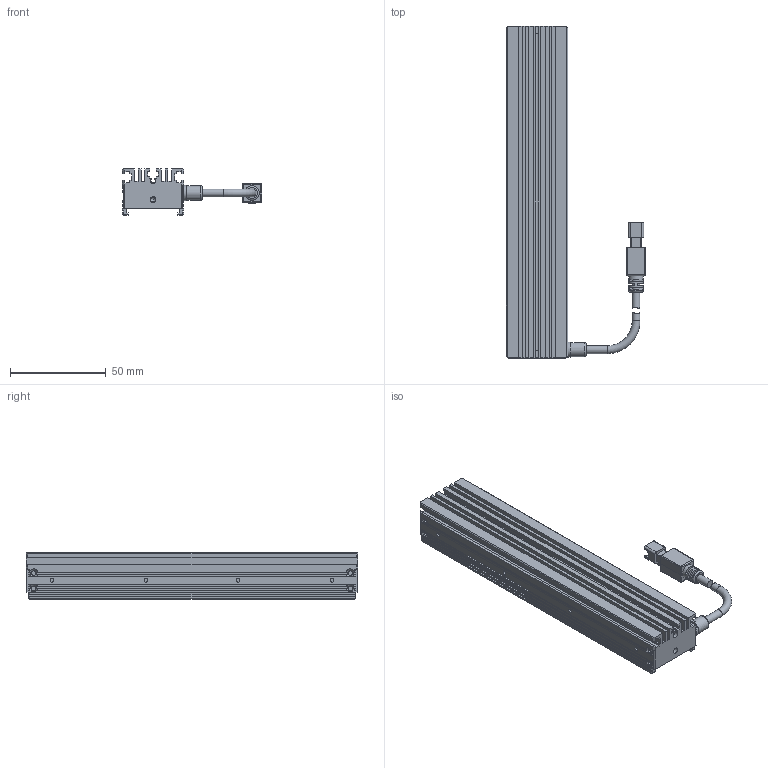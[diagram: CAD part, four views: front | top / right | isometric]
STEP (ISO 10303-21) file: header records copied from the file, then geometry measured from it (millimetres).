
FILE_DESCRIPTION (( 'STEP AP203' ), '1' );
FILE_NAME ('OPT-ILI17332-IR-V1.0尨砩芞.STEP', '2025-01-18T07:53:51', ( '' ), ( '' ), 'SwSTEP 2.0', 'SolidWorks 2016', '' );
FILE_SCHEMA (( 'CONFIG_CONTROL_DESIGN' ));
Length unit declared in the file: millimetre
Products named in the file (1): OPT-ILI17332-IR-V1.0尨砩芞
Bounding box: 72.6 x 173 x 24 mm (x, y, z)
Volume: 96392.3 mm3; surface area: 45413.7 mm2
Topology: 5 solids, 13 shells, 592 faces, 1541 edges, 987 vertices
Faces by surface type: plane 400, cylinder 134, cone 28, bspline 20, torus 10
Full cylindrical faces by diameter (mm): 1.1 x2, 1.4 x2, 1.6 x7, 2 x15, 2.4 x7, 2.5 x2, 3 x2, 3.5 x1, 4.1 x3, 7.5 x2, 8 x1
Entity records: 18171 total; most frequent: CARTESIAN_POINT 4179, ORIENTED_EDGE 2878, DIRECTION 2770, EDGE_CURVE 1439, LINE 986, VECTOR 986, VERTEX_POINT 959, AXIS2_PLACEMENT_3D 892
